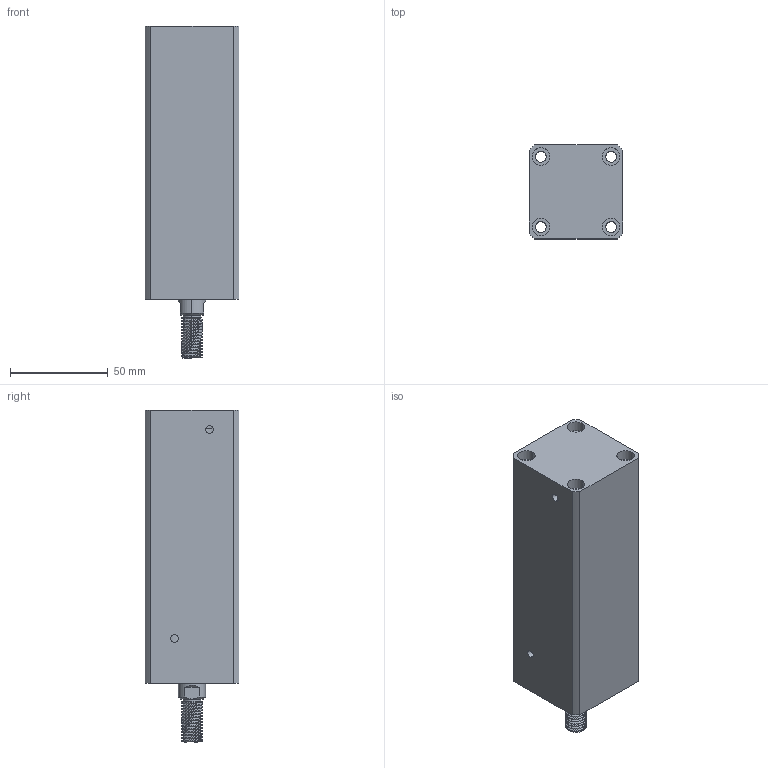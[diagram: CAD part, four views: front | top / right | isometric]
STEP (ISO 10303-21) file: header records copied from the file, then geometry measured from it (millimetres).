
FILE_DESCRIPTION (( 'STEP AP214' ), '1' );
FILE_NAME ('chtb-sdma25x95w_asm.STEP', '2018-05-22T07:45:29', ( 'Windows' ), ( 'Microsoft' ), 'SwSTEP 2.0', 'SolidWorks 2015', '' );
FILE_SCHEMA (( 'AUTOMOTIVE_DESIGN' ));
Length unit declared in the file: millimetre
Products named in the file (4): CHTB-SDMA25X95WHSG; CHTB-SDMA25X95NBT; CHTB-25QG; chtb-sdma25x95w_asm
Assembly tree (3 placements, depth 2):
  chtb-sdma25x95w_asm
    CHTB-25QG
    CHTB-SDMA25X95NBT
    CHTB-SDMA25X95WHSG
Bounding box: 48 x 48 x 170 mm (x, y, z)
Volume: 273757.3 mm3; surface area: 67106.4 mm2
Topology: 3 solids, 3 shells, 177 faces, 479 edges, 325 vertices
Faces by surface type: cylinder 117, plane 38, bspline 12, cone 10
Entity records: 10676 total; most frequent: CARTESIAN_POINT 6329, ORIENTED_EDGE 950, DIRECTION 772, EDGE_CURVE 475, VERTEX_POINT 325, AXIS2_PLACEMENT_3D 312, EDGE_LOOP 216, ADVANCED_FACE 177
